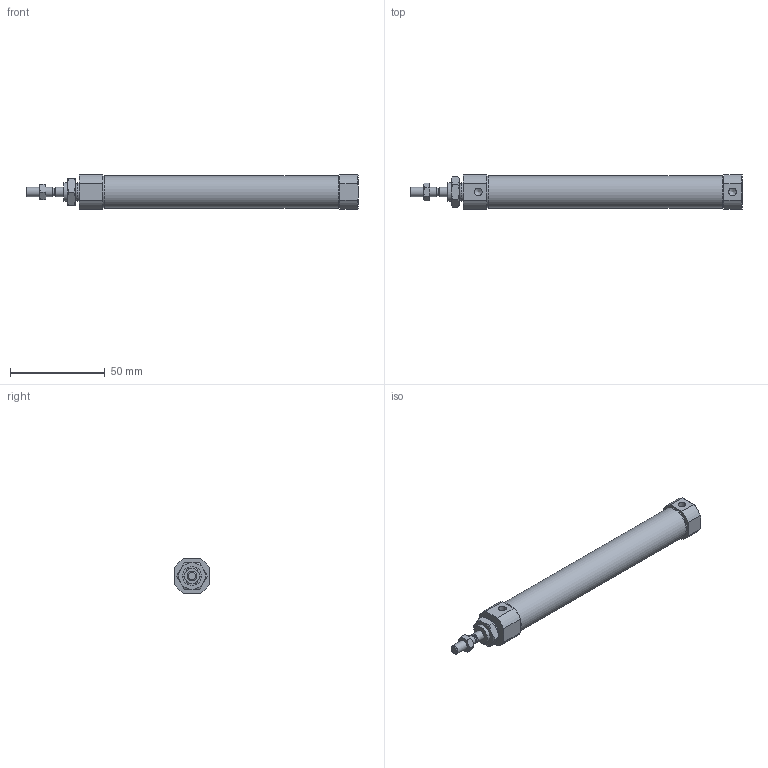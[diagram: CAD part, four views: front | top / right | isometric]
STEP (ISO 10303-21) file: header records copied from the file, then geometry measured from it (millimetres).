
FILE_DESCRIPTION((''),'2;1');
FILE_NAME('I:\3D電子目錄\氣缸\SBA\SBA\SBA16\SBA16x100.stp','2007-10-04T11:59:01',('66-2f-008'),(''),'Autodesk Inventor 11','Autodesk Inventor 11','');
FILE_SCHEMA(('AUTOMOTIVE_DESIGN { 1 0 10303 214 1 1 1 1 }'));
Length unit declared in the file: millimetre
Products named in the file (1): SBA16
Bounding box: 175 x 18 x 18 mm (x, y, z)
Volume: 36692.4 mm3; surface area: 9945.2 mm2
Topology: 1 solids, 1 shells, 88 faces, 192 edges, 117 vertices
Faces by surface type: plane 35, cone 30, cylinder 18, bspline 5
Full cylindrical faces by diameter (mm): 4 x1, 5 x3, 10 x3, 16.54 x2, 17.2 x1
Entity records: 2363 total; most frequent: CARTESIAN_POINT 637, DIRECTION 352, ORIENTED_EDGE 342, EDGE_CURVE 171, AXIS2_PLACEMENT_3D 153, EDGE_LOOP 116, VERTEX_POINT 113, FACE_OUTER_BOUND 88
